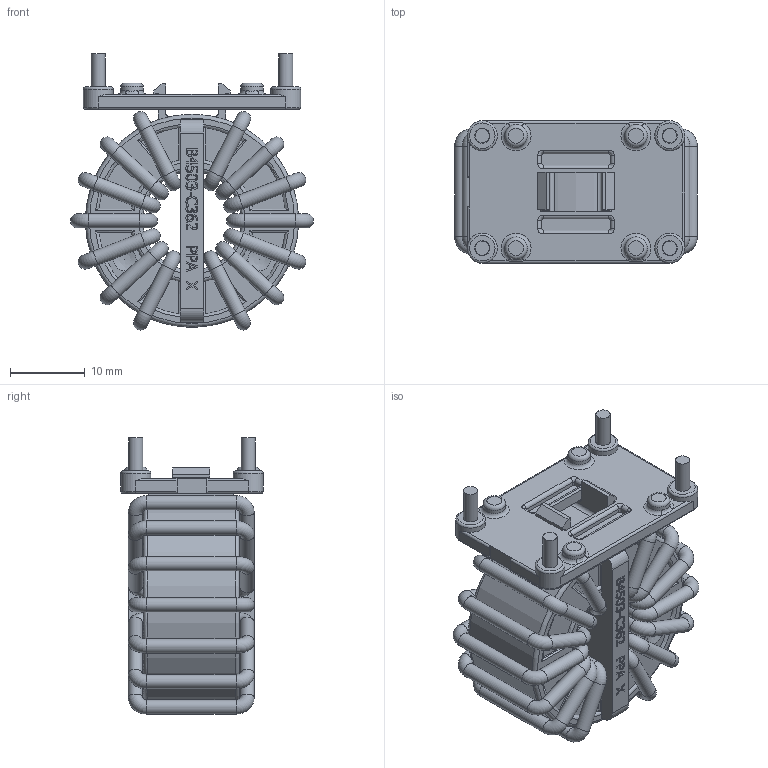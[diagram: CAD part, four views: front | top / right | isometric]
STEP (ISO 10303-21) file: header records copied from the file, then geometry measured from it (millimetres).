
FILE_DESCRIPTION(/* description */ (''),/* implementation_level */ '2;1');
FILE_NAME(/* name */ 'G:\KB-FTKon\CAD\Inventor\Bauelementnummer\6127-X009\6127-X009_Shrinkwrap_1.stp',/* time_stamp */ '2019-04-29T14:47:42+02:00',/* author */ ('de041100'),/* organization */ (''),/* preprocessor_version */ 'ST-DEVELOPER v17.2',/* originating_system */ 'Autodesk Inventor 2019',/* authorisation */ '');
FILE_SCHEMA (('AUTOMOTIVE_DESIGN { 1 0 10303 214 3 1 1 }'));
Length unit declared in the file: millimetre
Products named in the file (1): 6127-X009_Shrinkwrap_1
Bounding box: 32.4 x 19 x 36.82 mm (x, y, z)
Volume: 9810.6 mm3; surface area: 9495.7 mm2
Topology: 17 solids, 17 shells, 1255 faces, 3567 edges, 2368 vertices
Faces by surface type: plane 553, bspline 393, cylinder 183, torus 116, sphere 6, cone 4
Full cylindrical faces by diameter (mm): 1.9 x56, 2 x4, 3 x4, 4 x4, 13.2 x1, 14.4 x1, 27.2 x1, 28.4 x1
Entity records: 45638 total; most frequent: CARTESIAN_POINT 13717, ORIENTED_EDGE 7128, DIRECTION 5156, EDGE_CURVE 3564, VERTEX_POINT 2372, LINE 1898, VECTOR 1898, AXIS2_PLACEMENT_3D 1629
